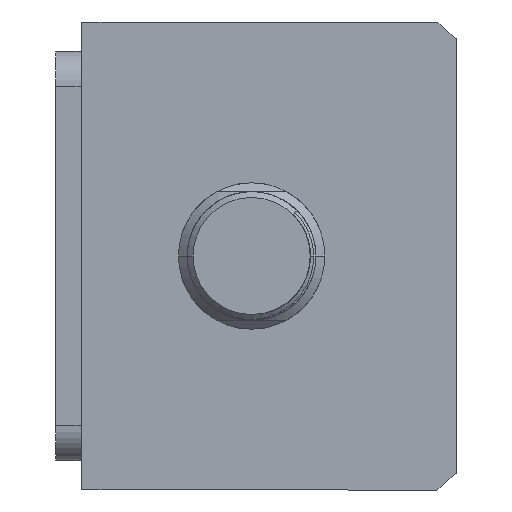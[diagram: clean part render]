
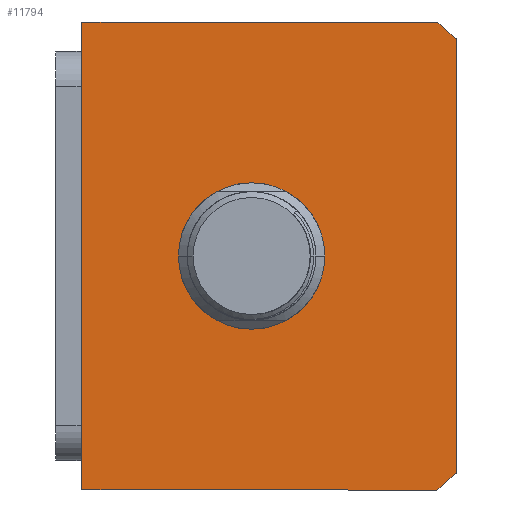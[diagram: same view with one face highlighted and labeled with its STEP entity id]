
A CAD part, front view. The second image highlights one B-rep face of the part: STEP entity #11794.
In plain terms, the highlighted planar face has unit normal (0, -1, 0) as drawn and (0, 0, -1) by its records, which use the part's own axes.
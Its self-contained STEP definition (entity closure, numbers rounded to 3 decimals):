
#65 = CIRCLE ( 'NONE', #14484, 51. ) ;
#150 = DIRECTION ( 'NONE',  ( 1., 0., 0. ) ) ;
#1423 = DIRECTION ( 'NONE',  ( 0., 0., 1. ) ) ;
#1853 = EDGE_CURVE ( 'NONE', #5179, #12959, #10818, .T. ) ;
#2260 = ORIENTED_EDGE ( 'NONE', *, *, #11844, .F. ) ;
#2486 = FACE_OUTER_BOUND ( 'NONE', #9328, .T. ) ;
#2532 = AXIS2_PLACEMENT_3D ( 'NONE', #9242, #8342, #150 ) ;
#3075 = LINE ( 'NONE', #5483, #10344 ) ;
#3290 = DIRECTION ( 'NONE',  ( 0., 1., 0. ) ) ;
#3769 = ORIENTED_EDGE ( 'NONE', *, *, #17551, .T. ) ;
#3928 = EDGE_CURVE ( 'NONE', #6926, #5179, #65, .T. ) ;
#4269 = DIRECTION ( 'NONE',  ( 0., -1., 0. ) ) ;
#4439 = DIRECTION ( 'NONE',  ( 0., 0., 1. ) ) ;
#5118 = VERTEX_POINT ( 'NONE', #9618 ) ;
#5179 = VERTEX_POINT ( 'NONE', #13882 ) ;
#5298 = AXIS2_PLACEMENT_3D ( 'NONE', #9625, #1423, #10992 ) ;
#5483 = CARTESIAN_POINT ( 'NONE',  ( -40., 32., 0. ) ) ;
#5635 = CARTESIAN_POINT ( 'NONE',  ( -40., 32., 0. ) ) ;
#6062 = CIRCLE ( 'NONE', #8006, 12.5 ) ;
#6729 = CARTESIAN_POINT ( 'NONE',  ( -40., -28.639, 0. ) ) ;
#6847 = ORIENTED_EDGE ( 'NONE', *, *, #15028, .F. ) ;
#6926 = VERTEX_POINT ( 'NONE', #10454 ) ;
#7028 = CARTESIAN_POINT ( 'NONE',  ( 0., 3., 0. ) ) ;
#7639 = DIRECTION ( 'NONE',  ( 0., 0., 1. ) ) ;
#7764 = CARTESIAN_POINT ( 'NONE',  ( 40., 32., 0. ) ) ;
#8006 = AXIS2_PLACEMENT_3D ( 'NONE', #7028, #16570, #8390 ) ;
#8158 = CARTESIAN_POINT ( 'NONE',  ( -40., -32., 0. ) ) ;
#8342 = DIRECTION ( 'NONE',  ( 0., 0., 1. ) ) ;
#8390 = DIRECTION ( 'NONE',  ( 1., 0., 0. ) ) ;
#8595 = VERTEX_POINT ( 'NONE', #9173 ) ;
#8775 = CARTESIAN_POINT ( 'NONE',  ( -37.094, -32., 0. ) ) ;
#9173 = CARTESIAN_POINT ( 'NONE',  ( -40., 32., 0. ) ) ;
#9242 = CARTESIAN_POINT ( 'NONE',  ( 0., 0., 0. ) ) ;
#9328 = EDGE_LOOP ( 'NONE', ( #6847, #2260, #13754, #12847, #17529, #13790 ) ) ;
#9618 = CARTESIAN_POINT ( 'NONE',  ( -12.5, 3., 0. ) ) ;
#9625 = CARTESIAN_POINT ( 'NONE',  ( 0., 3., 0. ) ) ;
#9872 = ORIENTED_EDGE ( 'NONE', *, *, #10294, .T. ) ;
#10294 = EDGE_CURVE ( 'NONE', #5118, #12139, #6062, .T. ) ;
#10344 = VECTOR ( 'NONE', #13708, 1000. ) ;
#10393 = VECTOR ( 'NONE', #3290, 1000. ) ;
#10454 = CARTESIAN_POINT ( 'NONE',  ( 37.094, -32., 0. ) ) ;
#10682 = EDGE_CURVE ( 'NONE', #12959, #8595, #3075, .T. ) ;
#10818 = LINE ( 'NONE', #11487, #10393 ) ;
#10992 = DIRECTION ( 'NONE',  ( 1., 0., 0. ) ) ;
#11487 = CARTESIAN_POINT ( 'NONE',  ( 40., 32., 0. ) ) ;
#11794 = ADVANCED_FACE ( 'NONE', ( #16619, #2486 ), #15144, .F. ) ;
#11844 = EDGE_CURVE ( 'NONE', #8595, #14398, #12978, .T. ) ;
#11851 = VECTOR ( 'NONE', #17719, 1000. ) ;
#12139 = VERTEX_POINT ( 'NONE', #15665 ) ;
#12278 = LINE ( 'NONE', #8158, #11851 ) ;
#12552 = VECTOR ( 'NONE', #4269, 1000. ) ;
#12636 = CARTESIAN_POINT ( 'NONE',  ( 0., 3., 0. ) ) ;
#12847 = ORIENTED_EDGE ( 'NONE', *, *, #1853, .F. ) ;
#12959 = VERTEX_POINT ( 'NONE', #7764 ) ;
#12978 = LINE ( 'NONE', #5635, #12552 ) ;
#13486 = EDGE_LOOP ( 'NONE', ( #3769, #9872 ) ) ;
#13708 = DIRECTION ( 'NONE',  ( -1., 0., 0. ) ) ;
#13754 = ORIENTED_EDGE ( 'NONE', *, *, #10682, .F. ) ;
#13790 = ORIENTED_EDGE ( 'NONE', *, *, #14475, .F. ) ;
#13882 = CARTESIAN_POINT ( 'NONE',  ( 40., -28.639, 0. ) ) ;
#14012 = DIRECTION ( 'NONE',  ( 1., 0., 0. ) ) ;
#14398 = VERTEX_POINT ( 'NONE', #6729 ) ;
#14475 = EDGE_CURVE ( 'NONE', #15329, #6926, #12278, .T. ) ;
#14484 = AXIS2_PLACEMENT_3D ( 'NONE', #12636, #4439, #14012 ) ;
#14957 = CIRCLE ( 'NONE', #17080, 12.5 ) ;
#15028 = EDGE_CURVE ( 'NONE', #14398, #15329, #15689, .T. ) ;
#15144 = PLANE ( 'NONE',  #2532 ) ;
#15329 = VERTEX_POINT ( 'NONE', #8775 ) ;
#15665 = CARTESIAN_POINT ( 'NONE',  ( 12.5, 3., 0. ) ) ;
#15689 = CIRCLE ( 'NONE', #5298, 51. ) ;
#15812 = CARTESIAN_POINT ( 'NONE',  ( 0., 3., 0. ) ) ;
#16570 = DIRECTION ( 'NONE',  ( 0., 0., 1. ) ) ;
#16619 = FACE_BOUND ( 'NONE', #13486, .T. ) ;
#17080 = AXIS2_PLACEMENT_3D ( 'NONE', #15812, #7639, #17185 ) ;
#17185 = DIRECTION ( 'NONE',  ( 1., 0., 0. ) ) ;
#17529 = ORIENTED_EDGE ( 'NONE', *, *, #3928, .F. ) ;
#17551 = EDGE_CURVE ( 'NONE', #12139, #5118, #14957, .T. ) ;
#17719 = DIRECTION ( 'NONE',  ( 1., 0., 0. ) ) ;
